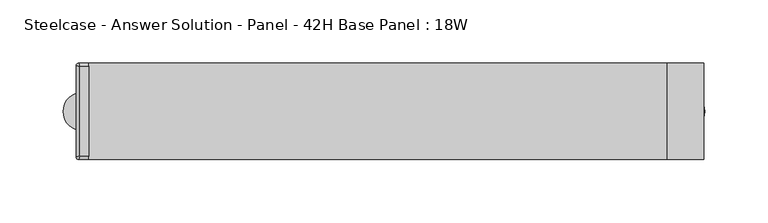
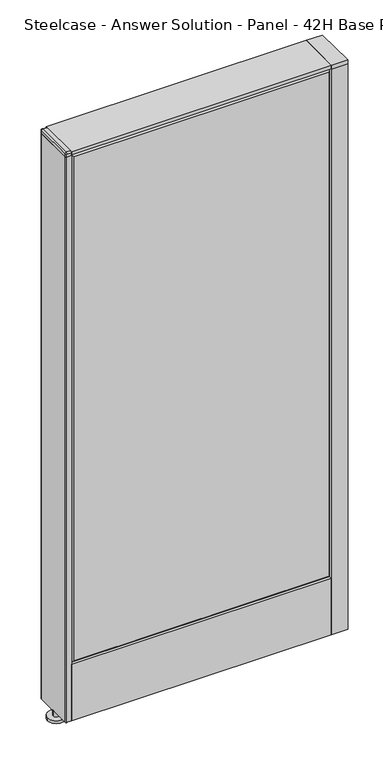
"""IFC4 building model written with IfcOpenShell, lengths in millimetres: furniture geometry, Steelcase - Answer Solution - Panel - 42H Base Panel : 18W."""

from ifc_helpers import new_model, si_unit, point, frame, frame_2d, origin, place, context, project, spatial, polyline, circle_curve, trimmed, segment, composite_curve, outline, extrude, faceted_brep, source, transform, mapped, element, save
from ifc_brep_helpers import plane_surface, spline_surface, advanced_brep


def steelcase_answer_solution_panel_42h_base_panel_18w_e3573936(model_context):
    return source(origin(), model_context, "Body", "SolidModel", [
        extrude(outline(composite_curve([segment(trimmed(circle_curve(frame_2d((242.824, 0.0039657)), 5.08), [point((247.904, 0.0039657))], [point((237.744, 0.0039657))], False, "CARTESIAN"), True, "CONTINUOUS"), segment(trimmed(circle_curve(frame_2d((242.824, 0.0039657)), 5.08), [point((237.744, 0.0039657))], [point((247.904, 0.0039657))], False, "CARTESIAN"), True, "CONTINUOUS")], self_intersect=False)), frame((0.0, 0.0, 5.0799671), z_axis=(0.0, 0.0, 1.0), x_axis=(1.0, 0.0, 0.0)), (0.0, 0.0, 1.0), 10.414),
        extrude(outline(composite_curve([segment(trimmed(circle_curve(frame_2d((242.824, 0.0039657)), 15.24), [point((258.064, 0.0039657))], [point((227.584, 0.0039657))], False, "CARTESIAN"), True, "CONTINUOUS"), segment(trimmed(circle_curve(frame_2d((242.824, 0.0039657)), 15.24), [point((227.584, 0.0039657))], [point((258.064, 0.0039657))], False, "CARTESIAN"), True, "CONTINUOUS")], self_intersect=False)), frame((0.0, 0.0, -3.29e-05), z_axis=(0.0, 0.0, 1.0), x_axis=(1.0, 0.0, 0.0)), (0.0, 0.0, 1.0), 5.08),
        extrude(outline(polyline([(257.175, 38.1039851), (257.175, -38.0960149), (228.6, -38.0960149), (228.6, 38.1039851), (257.175, 38.1039851)])), frame((0.0, 0.0, 1065.8348), z_axis=(0.0, 0.0, 1.0), x_axis=(1.0, 0.0, 0.0)), (0.0, 0.0, 1.0), 7.3151671),
        extrude(outline(polyline([(257.175, 38.1039851), (257.175, -38.0960149), (228.6, -38.0960149), (228.6, 38.1039851), (257.175, 38.1039851)])), frame((0.0, 0.0, 15.4939671), z_axis=(0.0, 0.0, 1.0), x_axis=(1.0, 0.0, 0.0)), (0.0, 0.0, 1.0), 1050.3408329),
        extrude(outline(composite_curve([segment(trimmed(circle_curve(frame_2d((-233.68, 0.0039657)), 5.08), [point((-238.76, 0.0039657))], [point((-228.6, 0.0039657))], False, "CARTESIAN"), True, "CONTINUOUS"), segment(trimmed(circle_curve(frame_2d((-233.68, 0.0039657)), 5.08), [point((-228.6, 0.0039657))], [point((-238.76, 0.0039657))], False, "CARTESIAN"), True, "CONTINUOUS")], self_intersect=False)), frame((0.0, 0.0, 5.0799671), z_axis=(0.0, 0.0, 1.0), x_axis=(1.0, 0.0, 0.0)), (0.0, 0.0, 1.0), 10.414),
        extrude(outline(composite_curve([segment(trimmed(circle_curve(frame_2d((-233.68, 0.0039657)), 15.24), [point((-248.92, 0.0039657))], [point((-218.44, 0.0039657))], False, "CARTESIAN"), True, "CONTINUOUS"), segment(trimmed(circle_curve(frame_2d((-233.68, 0.0039657)), 15.24), [point((-218.44, 0.0039657))], [point((-248.92, 0.0039657))], False, "CARTESIAN"), True, "CONTINUOUS")], self_intersect=False)), frame((0.0, 0.0, -3.29e-05), z_axis=(0.0, 0.0, 1.0), x_axis=(1.0, 0.0, 0.0)), (0.0, 0.0, 1.0), 5.08),
        advanced_brep(
        [(-235.9406, -35.2766149, 1073.1499671), (-228.6, -35.2766149, 1073.1499671), (-228.6, 35.2845851, 1073.1499671), (-235.9406, 35.2845851, 1073.1499671), (-236.8151197, -38.0960149, 1071.2704), (-238.76, -36.1511346, 1071.2704), (-238.76, 36.2122548, 1071.2704), (-236.8682696, 38.1039851, 1071.2704), (-228.6, 38.1039851, 1071.2704), (-228.6, -38.0960149, 1071.2704)],
        [
            (0, 1),
            (1, 2),
            (2, 3),
            (3, 0),
            (4, 0),
            (0, 5),
            (5, 4, circle_curve(frame((-236.8151197, -36.1511346, 1071.2704), z_axis=(0.0, 0.0, 1.0), x_axis=(0.0, 1.0, 0.0)), 1.9448803)),
            (3, 6),
            (6, 5),
            (3, 7),
            (7, 6, circle_curve(frame((-236.8682696, 36.2122548, 1071.2704), z_axis=(0.0, 0.0, 1.0), x_axis=(0.0, 1.0, 0.0)), 1.8917304)),
            (2, 8),
            (8, 7),
            (1, 9),
            (9, 8),
            (4, 9),
        ],
        [
            plane_surface(frame((-232.2703, 0.0039851, 1073.1499671), z_axis=(0.0, 0.0, 1.0), x_axis=(0.0, 1.0, 0.0))),
            spline_surface(1, 2, [[(-236.8151197, -38.0960149, 1071.2704), (-238.76, -38.09601490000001, 1071.2704), (-238.76, -36.1511346, 1071.2704)], [(-235.9406, -35.2766149, 1073.1499671), (-235.9406, -35.2766149, 1073.1499671), (-235.9406, -35.2766149, 1073.1499671)]], [2, 2], [3, 3], [0.0, 1.0], [0.0, 1.0], weights=[[1.0, 0.7071067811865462, 1.0], [1.0, 0.7071067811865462, 1.0]]),
            plane_surface(frame((-238.76, 0.0305601, 1071.2704), z_axis=(-0.554693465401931, 0.0, 0.832054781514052), x_axis=(0.0, 1.0, 0.0))),
            spline_surface(1, 2, [[(-238.76, 36.2122548, 1071.2704), (-238.76000009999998, 38.1039852, 1071.2704), (-236.8682696, 38.1039851, 1071.2704)], [(-235.9406, 35.2845851, 1073.1499671), (-235.9406, 35.2845851, 1073.1499671), (-235.9406, 35.2845851, 1073.1499671)]], [2, 2], [3, 3], [0.0, 1.0], [0.0, 1.0], weights=[[1.0, 0.7071067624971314, 1.0], [1.0, 0.7071067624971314, 1.0]]),
            plane_surface(frame((-232.7341348, 38.1039851, 1071.2704), z_axis=(0.0, 0.5546934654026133, 0.8320547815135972), x_axis=(1.0, 0.0, 0.0))),
            plane_surface(frame((-228.6, 0.0039851, 1071.2704), z_axis=(1.0, 0.0, 0.0), x_axis=(0.0, -1.0, 0.0))),
            plane_surface(frame((-232.7075599, -38.0960149, 1071.2704), z_axis=(0.0, -0.5546934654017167, 0.8320547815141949), x_axis=(-1.0, 0.0, 0.0))),
            plane_surface(frame((-234.7338982, 0.0128434, 1071.2704), z_axis=(0.0, 0.0, -1.0), x_axis=(0.0, 1.0, 0.0))),
        ],
        [
            (0, [[1, 2, 3, 4]]),
            (1, [[5, 6, 7]]),
            (2, [[-6, -4, 8, 9]]),
            (3, [[-8, 10, 11]]),
            (4, [[-10, -3, 12, 13]]),
            (5, [[-12, -2, 14, 15]]),
            (6, [[-14, -1, -5, 16]]),
            (7, [[-7, -9, -11, -13, -15, -16]]),
        ],
    ),
        extrude(outline(composite_curve([segment(trimmed(circle_curve(frame_2d((-236.8682696, 36.2122548)), 1.8917304), [point((-238.76, 36.2122548))], [point((-236.8682696, 38.1039851))], False, "CARTESIAN"), True, "CONTINUOUS"), segment(polyline([(-236.8682696, 38.1039851), (-228.6, 38.1039851), (-228.6, -38.0960149), (-236.8151197, -38.0960149)]), True, "CONTINUOUS"), segment(trimmed(circle_curve(frame_2d((-236.8151197, -36.1511346)), 1.9448803), [point((-236.8151197, -38.0960149))], [point((-238.76, -36.1511346))], False, "CARTESIAN"), True, "CONTINUOUS"), segment(polyline([(-238.76, -36.1511346), (-238.76, 36.2122548)]), True, "CONTINUOUS")], self_intersect=False)), frame((0.0, 0.0, 1065.8348), z_axis=(0.0, 0.0, 1.0), x_axis=(1.0, 0.0, 0.0)), (0.0, 0.0, 1.0), 5.4356),
        extrude(outline(composite_curve([segment(trimmed(circle_curve(frame_2d((-236.8879058, 36.2318909)), 1.8720942), [point((-238.76, 36.2318909))], [point((-236.8879058, 38.1039851))], False, "CARTESIAN"), True, "CONTINUOUS"), segment(polyline([(-236.8879058, 38.1039851), (-228.6, 38.1039851), (-228.6, -38.0960149), (-236.8193552, -38.0960149)]), True, "CONTINUOUS"), segment(trimmed(circle_curve(frame_2d((-236.8193552, -36.15537)), 1.9406448), [point((-236.8193552, -38.0960149))], [point((-238.76, -36.15537))], False, "CARTESIAN"), True, "CONTINUOUS"), segment(polyline([(-238.76, -36.15537), (-238.76, 36.2318909)]), True, "CONTINUOUS")], self_intersect=False)), frame((0.0, 0.0, 15.4939671), z_axis=(0.0, 0.0, 1.0), x_axis=(1.0, 0.0, 0.0)), (0.0, 0.0, 1.0), 1050.3408329),
        faceted_brep([(-223.774, 38.1635011, 1061.974), (223.774, 38.1635011, 1061.974), (223.774, 38.1635011, 125.476), (-223.774, 38.1635011, 125.476), (-228.6, 33.3375011, 1066.8), (-228.6, 33.3375011, 120.65), (228.6, 33.3375011, 120.65), (228.6, 33.3375011, 1066.8)], [[[0, 1, 2, 3]], [[4, 5, 6, 7]], [[4, 7, 1, 0]], [[7, 6, 2, 1]], [[6, 5, 3, 2]], [[5, 4, 0, 3]]]),
        faceted_brep([(223.774, -38.1635011, 1061.974), (-223.774, -38.1635011, 1061.974), (-223.774, -38.1635011, 125.476), (223.774, -38.1635011, 125.476), (228.6, -33.3375011, 1066.8), (228.6, -33.3375011, 120.65), (-228.6, -33.3375011, 120.65), (-228.6, -33.3375011, 1066.8)], [[[0, 1, 2, 3]], [[4, 5, 6, 7]], [[4, 7, 1, 0]], [[7, 6, 2, 1]], [[6, 5, 3, 2]], [[5, 4, 0, 3]]]),
        extrude(outline(polyline([(228.6, 38.1000194), (228.6, -38.1000194), (-228.6, -38.1000194), (-228.6, 38.1000194), (228.6, 38.1000194)])), frame((0.0, 0.0, 1066.8), z_axis=(0.0, 0.0, 1.0), x_axis=(1.0, 0.0, 0.0)), (0.0, 0.0, 1.0), 6.35),
        extrude(outline(polyline([(25.4000011, 119.8575157), (25.4000011, 120.65), (38.1000194, 120.65), (38.1000194, 15.494), (37.3075215, 15.494), (37.3075215, 119.8575157), (25.4000011, 119.8575157)])), frame((-228.6, 0.0, 0.0), z_axis=(1.0, 0.0, 0.0), x_axis=(0.0, 1.0, 0.0)), (0.0, 0.0, 1.0), 457.2),
        extrude(outline(polyline([(-25.4000011, 119.8575157), (-37.3075215, 119.8575157), (-37.3075215, 15.494), (-38.1000194, 15.494), (-38.1000194, 120.65), (-25.4000011, 120.65), (-25.4000011, 119.8575157)])), frame((-228.6, 0.0, 0.0), z_axis=(1.0, 0.0, 0.0), x_axis=(0.0, 1.0, 0.0)), (0.0, 0.0, 1.0), 457.2),
    ])


if __name__ == "__main__":
    model = new_model("IFC4")
    model_context = context("Model", 3, world=origin())
    ifc_project = project(units=[si_unit("LENGTHUNIT", "METRE", prefix="MILLI")], contexts=[model_context])
    site = spatial("IfcSite", under=ifc_project)
    building = spatial("IfcBuilding", under=site)
    placement = place(None, origin())
    steelcase_answer_solution_panel_42h_base_panel_18w_shape = steelcase_answer_solution_panel_42h_base_panel_18w_e3573936(model_context)
    element("IfcFurniture", 1, ObjectType="Steelcase - Answer Solution - Panel - 42H Base Panel : 18W", at=placement, inside=building, context=model_context, shape_type="MappedRepresentation", body=[
        mapped(steelcase_answer_solution_panel_42h_base_panel_18w_shape, transform((0.0, 0.0, 0.0), x_axis=(1.0, 0.0, 0.0), y_axis=(0.0, 1.0, 0.0), z_axis=(0.0, 0.0, 1.0))),
    ])
    save(model, "model.ifc")
